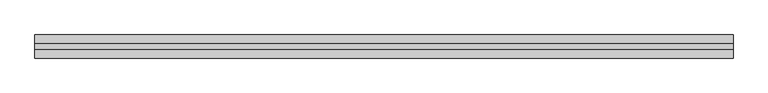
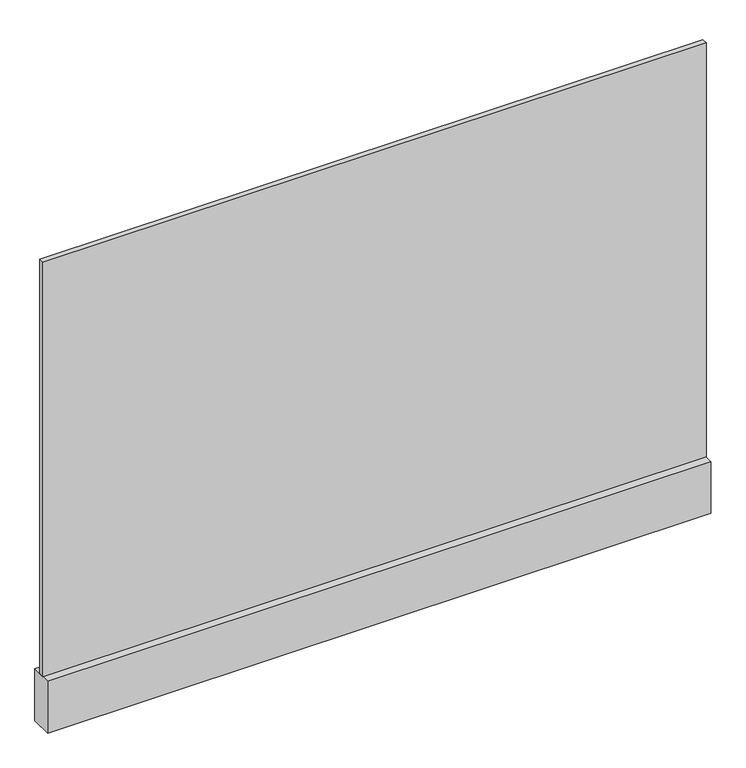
"""IFC4 building model written with IfcOpenShell, lengths in millimetres: plate geometry, r パネル FIX 下框付 : 框 H100."""

from ifc_helpers import new_model, si_unit, frame, origin, origin_with_axes, place, context, project, spatial, polyline, outline, extrude, source, transform, mapped, element, save


def plate_bf09a1c6(model_context):
    return source(origin(), model_context, "Body", "SweptSolid", [
        extrude(outline(polyline([(-605.9309555, -5.0), (-605.9309555, 5.0), (605.9309555, 5.0), (605.9309555, -5.0), (-605.9309555, -5.0)])), frame((0.0, 0.0, 100.0), z_axis=(0.0, 0.0, 1.0), x_axis=(1.0, 0.0, 0.0)), (0.0, 0.0, 1.0), 800.0),
        extrude(outline(polyline([(-605.9309555, -20.0), (-605.9309555, 20.0), (605.9309555, 20.0), (605.9309555, -20.0), (-605.9309555, -20.0)])), origin_with_axes(), (0.0, 0.0, 1.0), 100.0),
    ])


if __name__ == "__main__":
    model = new_model("IFC4")
    model_context = context("Model", 3, world=origin())
    ifc_project = project(units=[si_unit("LENGTHUNIT", "METRE", prefix="MILLI")], contexts=[model_context])
    site = spatial("IfcSite", under=ifc_project)
    building = spatial("IfcBuilding", under=site)
    placement = place(None, origin())
    plate_shape = plate_bf09a1c6(model_context)
    element("IfcPlate", 1, ObjectType="r パネル FIX 下框付 : 框 H100", at=placement, inside=building, context=model_context, shape_type="MappedRepresentation", body=[
        mapped(plate_shape, transform((0.0, 0.0, 0.0), x_axis=(1.0, 0.0, 0.0), y_axis=(0.0, 1.0, 0.0), z_axis=(0.0, 0.0, 1.0))),
    ])
    save(model, "model.ifc")
